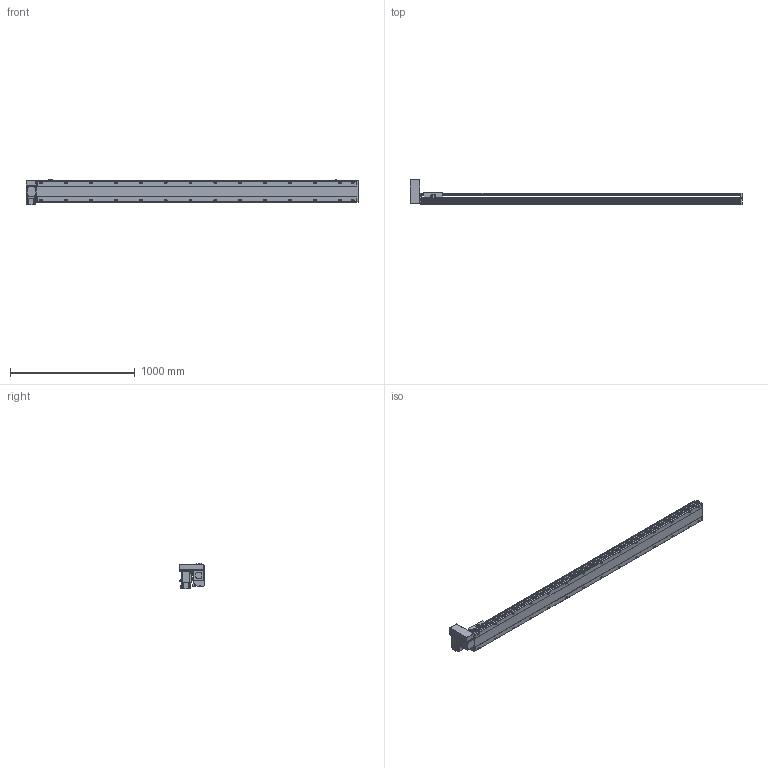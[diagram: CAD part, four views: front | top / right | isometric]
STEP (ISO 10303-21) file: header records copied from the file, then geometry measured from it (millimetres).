
FILE_DESCRIPTION(/* description */ ('STEP AP214'),/* implementation_level */ '2;1');
FILE_NAME(/* name */ 'PBS170-P40-S2300-RU-T75-C1-N(0)',/* time_stamp */ '2022-06-08T08:00:25+02:00',/* author */ ('License CC BY-ND 4.0'),/* organization */ ('CADENAS'),/* preprocessor_version */ 'ST-DEVELOPER v18.102',/* originating_system */ 'PARTsolutions',/* authorisation */ ' ');
FILE_SCHEMA (('AUTOMOTIVE_DESIGN {1 0 10303 214 3 1 1}'));
Length unit declared in the file: millimetre
Products named in the file (7): PBS170-P40-S2300-RU-T75-C1-N(0); PBS170_sensor; PBS170_plant; PBS170_sliser; T75-p1; PBS170T-RU_motors; PBS170-S2300()_body
Assembly tree (8 placements, depth 2):
  PBS170-P40-S2300-RU-T75-C1-N(0)
    PBS170_sensor  x3
    PBS170_plant
    PBS170_sliser
    T75-p1
    PBS170T-RU_motors
    PBS170-S2300()_body
Bounding box: 2663 x 206 x 205.3 mm (x, y, z)
Volume: 20252232.2 mm3; surface area: 2558160 mm2
Topology: 8 solids, 8 shells, 1178 faces, 3115 edges, 2030 vertices
Faces by surface type: plane 723, cylinder 387, cone 58, sphere 8, torus 2
Full cylindrical faces by diameter (mm): 3.242 x4, 4 x2, 4.4 x4, 4.5 x6, 4.917 x4, 6 x9, 6.647 x36, 7 x2, 7.5 x4, 8 x8, 8.5 x28, 10 x4, 10.5 x28, 11 x2, 30 x2, 40 x1, 70 x1
Entity records: 33866 total; most frequent: CARTESIAN_POINT 6385, DIRECTION 5720, ORIENTED_EDGE 5388, EDGE_CURVE 2694, AXIS2_PLACEMENT_3D 2017, VERTEX_POINT 1874, LINE 1686, VECTOR 1686
